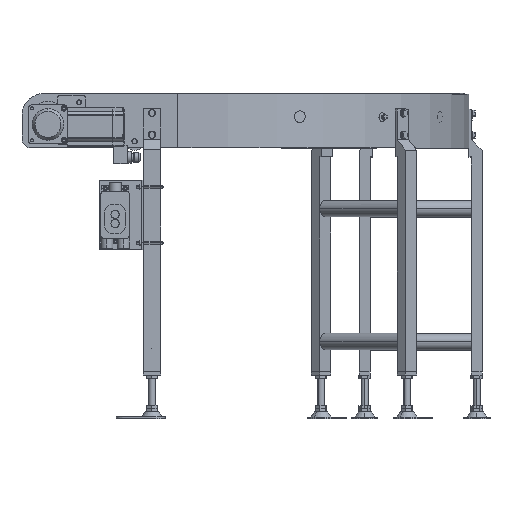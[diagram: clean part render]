
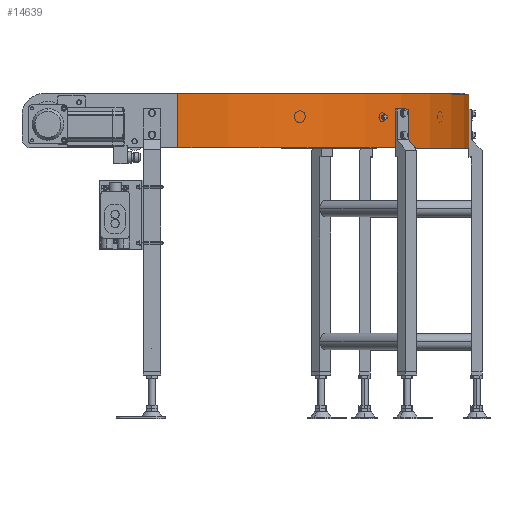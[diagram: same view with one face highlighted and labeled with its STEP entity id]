
A CAD part, top view. The second image highlights one B-rep face of the part: STEP entity #14639.
In plain terms, the highlighted cylindrical face has radius 672 mm (diameter 1344 mm), a partial arc.
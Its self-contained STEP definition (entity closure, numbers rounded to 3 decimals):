
#33 = DIRECTION ( 'NONE',  ( 0., 0., -1. ) ) ;
#903 = ORIENTED_EDGE ( 'NONE', *, *, #26143, .T. ) ;
#3610 = DIRECTION ( 'NONE',  ( 0., 1., 0. ) ) ;
#6750 = DIRECTION ( 'NONE',  ( 0., 1., 0. ) ) ;
#6794 = VECTOR ( 'NONE', #13349, 1000. ) ;
#8694 = EDGE_LOOP ( 'NONE', ( #903, #30329, #29849, #41599 ) ) ;
#13349 = DIRECTION ( 'NONE',  ( 0., 1., 0. ) ) ;
#13704 = CARTESIAN_POINT ( 'NONE',  ( 1032., 0., -561. ) ) ;
#14639 = ADVANCED_FACE ( 'NONE', ( #44390 ), #25914, .T. ) ;
#14993 = EDGE_CURVE ( 'NONE', #40910, #37373, #50142, .T. ) ;
#17549 = DIRECTION ( 'NONE',  ( 0., -1., 0. ) ) ;
#18361 = CARTESIAN_POINT ( 'NONE',  ( 1032., -125., -561. ) ) ;
#20740 = CARTESIAN_POINT ( 'NONE',  ( 360., 0., -561. ) ) ;
#22011 = DIRECTION ( 'NONE',  ( 0., 0., 1. ) ) ;
#25025 = DIRECTION ( 'NONE',  ( 0., -1., 0. ) ) ;
#25914 = CYLINDRICAL_SURFACE ( 'NONE', #36493, 672. ) ;
#26143 = EDGE_CURVE ( 'NONE', #46979, #37373, #45190, .T. ) ;
#29849 = ORIENTED_EDGE ( 'NONE', *, *, #49319, .F. ) ;
#30329 = ORIENTED_EDGE ( 'NONE', *, *, #14993, .F. ) ;
#31838 = CARTESIAN_POINT ( 'NONE',  ( 1032., -125., -561. ) ) ;
#32075 = CARTESIAN_POINT ( 'NONE',  ( 360., -125., -561. ) ) ;
#35457 = CARTESIAN_POINT ( 'NONE',  ( 360., 0., 111. ) ) ;
#36493 = AXIS2_PLACEMENT_3D ( 'NONE', #32075, #3610, #33 ) ;
#37047 = AXIS2_PLACEMENT_3D ( 'NONE', #38183, #17549, #22011 ) ;
#37292 = DIRECTION ( 'NONE',  ( 0., 0., 1. ) ) ;
#37373 = VERTEX_POINT ( 'NONE', #35457 ) ;
#37534 = EDGE_CURVE ( 'NONE', #46603, #46979, #46992, .T. ) ;
#38183 = CARTESIAN_POINT ( 'NONE',  ( 360., -125., -561. ) ) ;
#40910 = VERTEX_POINT ( 'NONE', #46477 ) ;
#41599 = ORIENTED_EDGE ( 'NONE', *, *, #37534, .T. ) ;
#42348 = CARTESIAN_POINT ( 'NONE',  ( 360., -125., 111. ) ) ;
#43086 = CIRCLE ( 'NONE', #37047, 672. ) ;
#44390 = FACE_OUTER_BOUND ( 'NONE', #8694, .T. ) ;
#45190 = CIRCLE ( 'NONE', #50207, 672. ) ;
#45701 = VECTOR ( 'NONE', #6750, 1000. ) ;
#46477 = CARTESIAN_POINT ( 'NONE',  ( 360., -125., 111. ) ) ;
#46603 = VERTEX_POINT ( 'NONE', #18361 ) ;
#46979 = VERTEX_POINT ( 'NONE', #13704 ) ;
#46992 = LINE ( 'NONE', #31838, #45701 ) ;
#49319 = EDGE_CURVE ( 'NONE', #46603, #40910, #43086, .T. ) ;
#50142 = LINE ( 'NONE', #42348, #6794 ) ;
#50207 = AXIS2_PLACEMENT_3D ( 'NONE', #20740, #25025, #37292 ) ;
